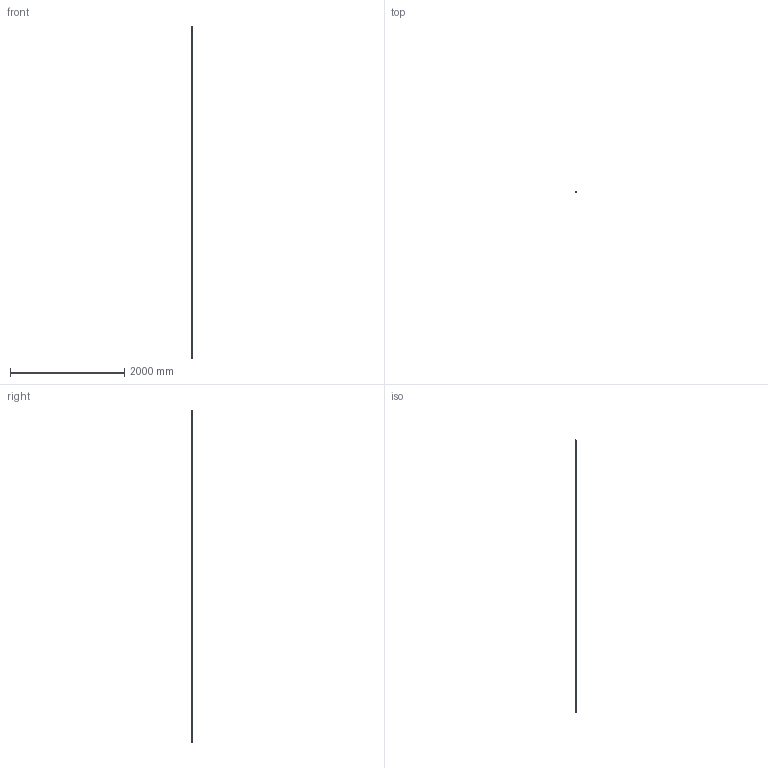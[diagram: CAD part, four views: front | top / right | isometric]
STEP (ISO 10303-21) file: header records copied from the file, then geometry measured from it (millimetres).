
FILE_DESCRIPTION((''),'2;1');
FILE_NAME('KUGELSCHIENE_CS_ASM','2021-10-14T09:51:31',('ac91sw'),(''),'CREO PARAMETRIC BY PTC INC, 2020044','CREO PARAMETRIC BY PTC INC, 2020044','');
FILE_SCHEMA(('AUTOMOTIVE_DESIGN { 1 0 10303 214 1 1 1 1 }'));
Length unit declared in the file: millimetre
Products named in the file (3): KUGELSCHIENE_CS_SKEL; KUGELSCHIENE_CS_RAIL1; KUGELSCHIENE_CS_ASM
Assembly tree (2 placements, depth 2):
  KUGELSCHIENE_CS_ASM
    KUGELSCHIENE_CS_SKEL
    KUGELSCHIENE_CS_RAIL1
Bounding box: 23 x 24.25 x 5816 mm (x, y, z)
Volume: 2469950.3 mm3; surface area: 612749.2 mm2
Topology: 1 solids, 98 shells, 757 faces, 1926 edges, 1171 vertices
Faces by surface type: cylinder 392, cone 202, plane 163
Entity records: 23446 total; most frequent: DIRECTION 4230, CARTESIAN_POINT 3735, ORIENTED_EDGE 3076, AXIS2_PLACEMENT_3D 1750, EDGE_CURVE 1732, VERTEX_POINT 1171, CIRCLE 986, EDGE_LOOP 951
